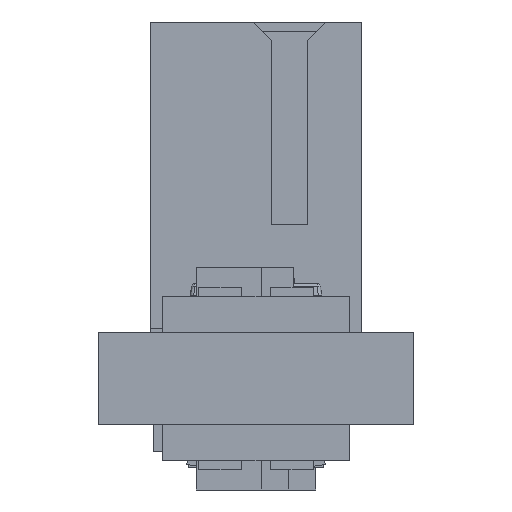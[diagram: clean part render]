
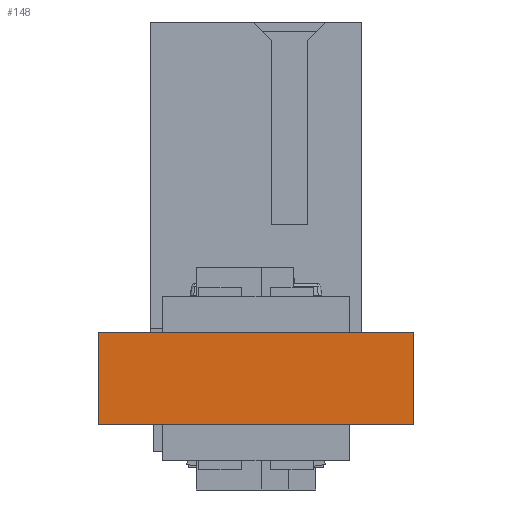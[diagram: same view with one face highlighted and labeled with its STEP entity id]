
A CAD part, front view. The second image highlights one B-rep face of the part: STEP entity #148.
In plain terms, the highlighted planar face has unit normal (0, -1, 0).
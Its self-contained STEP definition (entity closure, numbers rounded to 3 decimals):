
#148 = ADVANCED_FACE('',(#149),#163,.F.);
#149 = FACE_BOUND('',#150,.F.);
#150 = EDGE_LOOP('',(#151,#186,#214,#242));
#151 = ORIENTED_EDGE('',*,*,#152,.T.);
#152 = EDGE_CURVE('',#153,#155,#157,.T.);
#153 = VERTEX_POINT('',#154);
#154 = CARTESIAN_POINT('',(0.,0.,0.));
#155 = VERTEX_POINT('',#156);
#156 = CARTESIAN_POINT('',(0.,0.,2.048));
#157 = SURFACE_CURVE('',#158,(#162,#174),.PCURVE_S1.);
#158 = LINE('',#159,#160);
#159 = CARTESIAN_POINT('',(0.,0.,0.));
#160 = VECTOR('',#161,1.);
#161 = DIRECTION('',(0.,0.,1.));
#162 = PCURVE('',#163,#168);
#163 = PLANE('',#164);
#164 = AXIS2_PLACEMENT_3D('',#165,#166,#167);
#165 = CARTESIAN_POINT('',(0.,0.,0.));
#166 = DIRECTION('',(0.,1.,0.));
#167 = DIRECTION('',(1.,0.,0.));
#168 = DEFINITIONAL_REPRESENTATION('',(#169),#173);
#169 = LINE('',#170,#171);
#170 = CARTESIAN_POINT('',(0.,0.));
#171 = VECTOR('',#172,1.);
#172 = DIRECTION('',(0.,-1.));
#173 = ( GEOMETRIC_REPRESENTATION_CONTEXT(2) 
PARAMETRIC_REPRESENTATION_CONTEXT() REPRESENTATION_CONTEXT('2D SPACE',''
  ) );
#174 = PCURVE('',#175,#180);
#175 = PLANE('',#176);
#176 = AXIS2_PLACEMENT_3D('',#177,#178,#179);
#177 = CARTESIAN_POINT('',(0.,120.,0.));
#178 = DIRECTION('',(1.,0.,0.));
#179 = DIRECTION('',(0.,-1.,0.));
#180 = DEFINITIONAL_REPRESENTATION('',(#181),#185);
#181 = LINE('',#182,#183);
#182 = CARTESIAN_POINT('',(120.,0.));
#183 = VECTOR('',#184,1.);
#184 = DIRECTION('',(0.,-1.));
#185 = ( GEOMETRIC_REPRESENTATION_CONTEXT(2) 
PARAMETRIC_REPRESENTATION_CONTEXT() REPRESENTATION_CONTEXT('2D SPACE',''
  ) );
#186 = ORIENTED_EDGE('',*,*,#187,.T.);
#187 = EDGE_CURVE('',#155,#188,#190,.T.);
#188 = VERTEX_POINT('',#189);
#189 = CARTESIAN_POINT('',(7.,0.,2.048));
#190 = SURFACE_CURVE('',#191,(#195,#202),.PCURVE_S1.);
#191 = LINE('',#192,#193);
#192 = CARTESIAN_POINT('',(0.,0.,2.048));
#193 = VECTOR('',#194,1.);
#194 = DIRECTION('',(1.,0.,0.));
#195 = PCURVE('',#163,#196);
#196 = DEFINITIONAL_REPRESENTATION('',(#197),#201);
#197 = LINE('',#198,#199);
#198 = CARTESIAN_POINT('',(0.,-2.048));
#199 = VECTOR('',#200,1.);
#200 = DIRECTION('',(1.,0.));
#201 = ( GEOMETRIC_REPRESENTATION_CONTEXT(2) 
PARAMETRIC_REPRESENTATION_CONTEXT() REPRESENTATION_CONTEXT('2D SPACE',''
  ) );
#202 = PCURVE('',#203,#208);
#203 = PLANE('',#204);
#204 = AXIS2_PLACEMENT_3D('',#205,#206,#207);
#205 = CARTESIAN_POINT('',(0.,0.,2.048));
#206 = DIRECTION('',(0.,0.,-1.));
#207 = DIRECTION('',(-1.,0.,0.));
#208 = DEFINITIONAL_REPRESENTATION('',(#209),#213);
#209 = LINE('',#210,#211);
#210 = CARTESIAN_POINT('',(0.,0.));
#211 = VECTOR('',#212,1.);
#212 = DIRECTION('',(-1.,0.));
#213 = ( GEOMETRIC_REPRESENTATION_CONTEXT(2) 
PARAMETRIC_REPRESENTATION_CONTEXT() REPRESENTATION_CONTEXT('2D SPACE',''
  ) );
#214 = ORIENTED_EDGE('',*,*,#215,.F.);
#215 = EDGE_CURVE('',#216,#188,#218,.T.);
#216 = VERTEX_POINT('',#217);
#217 = CARTESIAN_POINT('',(7.,0.,0.));
#218 = SURFACE_CURVE('',#219,(#223,#230),.PCURVE_S1.);
#219 = LINE('',#220,#221);
#220 = CARTESIAN_POINT('',(7.,0.,0.));
#221 = VECTOR('',#222,1.);
#222 = DIRECTION('',(0.,0.,1.));
#223 = PCURVE('',#163,#224);
#224 = DEFINITIONAL_REPRESENTATION('',(#225),#229);
#225 = LINE('',#226,#227);
#226 = CARTESIAN_POINT('',(7.,0.));
#227 = VECTOR('',#228,1.);
#228 = DIRECTION('',(0.,-1.));
#229 = ( GEOMETRIC_REPRESENTATION_CONTEXT(2) 
PARAMETRIC_REPRESENTATION_CONTEXT() REPRESENTATION_CONTEXT('2D SPACE',''
  ) );
#230 = PCURVE('',#231,#236);
#231 = PLANE('',#232);
#232 = AXIS2_PLACEMENT_3D('',#233,#234,#235);
#233 = CARTESIAN_POINT('',(7.,0.,0.));
#234 = DIRECTION('',(-1.,0.,0.));
#235 = DIRECTION('',(0.,1.,0.));
#236 = DEFINITIONAL_REPRESENTATION('',(#237),#241);
#237 = LINE('',#238,#239);
#238 = CARTESIAN_POINT('',(0.,0.));
#239 = VECTOR('',#240,1.);
#240 = DIRECTION('',(0.,-1.));
#241 = ( GEOMETRIC_REPRESENTATION_CONTEXT(2) 
PARAMETRIC_REPRESENTATION_CONTEXT() REPRESENTATION_CONTEXT('2D SPACE',''
  ) );
#242 = ORIENTED_EDGE('',*,*,#243,.F.);
#243 = EDGE_CURVE('',#153,#216,#244,.T.);
#244 = SURFACE_CURVE('',#245,(#249,#256),.PCURVE_S1.);
#245 = LINE('',#246,#247);
#246 = CARTESIAN_POINT('',(0.,0.,0.));
#247 = VECTOR('',#248,1.);
#248 = DIRECTION('',(1.,0.,0.));
#249 = PCURVE('',#163,#250);
#250 = DEFINITIONAL_REPRESENTATION('',(#251),#255);
#251 = LINE('',#252,#253);
#252 = CARTESIAN_POINT('',(0.,0.));
#253 = VECTOR('',#254,1.);
#254 = DIRECTION('',(1.,0.));
#255 = ( GEOMETRIC_REPRESENTATION_CONTEXT(2) 
PARAMETRIC_REPRESENTATION_CONTEXT() REPRESENTATION_CONTEXT('2D SPACE',''
  ) );
#256 = PCURVE('',#257,#262);
#257 = PLANE('',#258);
#258 = AXIS2_PLACEMENT_3D('',#259,#260,#261);
#259 = CARTESIAN_POINT('',(0.,0.,0.));
#260 = DIRECTION('',(0.,0.,-1.));
#261 = DIRECTION('',(-1.,0.,0.));
#262 = DEFINITIONAL_REPRESENTATION('',(#263),#267);
#263 = LINE('',#264,#265);
#264 = CARTESIAN_POINT('',(0.,0.));
#265 = VECTOR('',#266,1.);
#266 = DIRECTION('',(-1.,0.));
#267 = ( GEOMETRIC_REPRESENTATION_CONTEXT(2) 
PARAMETRIC_REPRESENTATION_CONTEXT() REPRESENTATION_CONTEXT('2D SPACE',''
  ) );
